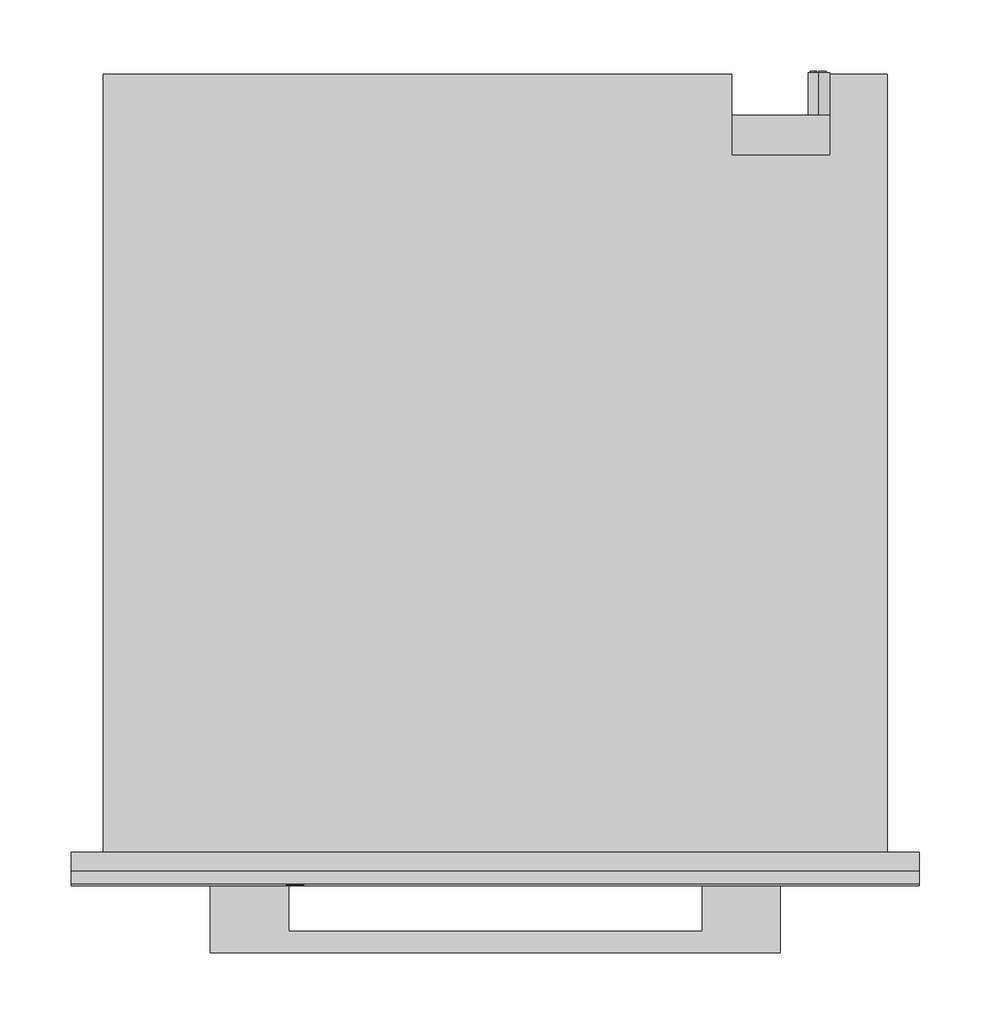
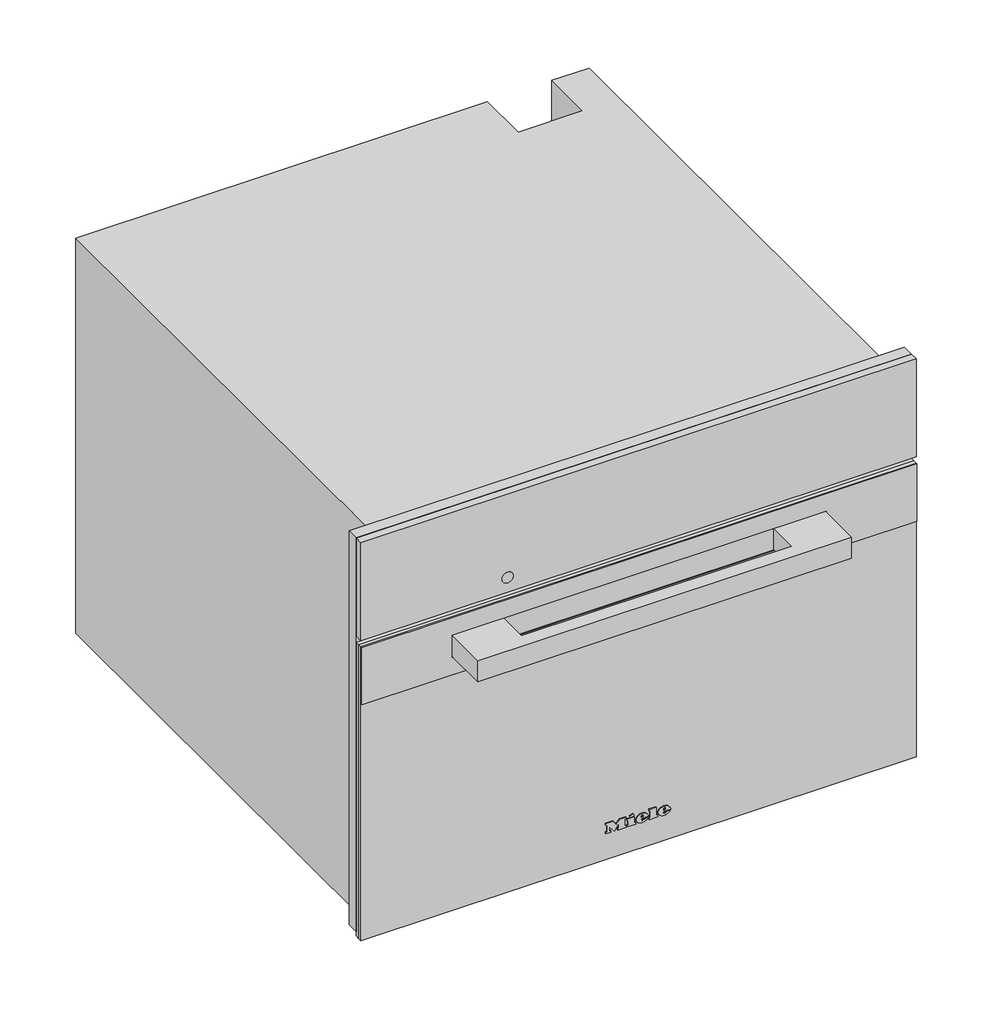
# Not in any storey: 1 proxy.
"""IFC4 building model written with IfcOpenShell, lengths in millimetres."""

import ifcopenshell
import ifcopenshell.guid

model = None  # the IFC model being written
_history = None  # IfcOwnerHistory: only IFC2X3 demands one
_inside = {}  # id of a spatial element -> (the spatial element, [elements in it])
_under = {}  # id of a project, library or spatial element -> (it, [spatial elements below it])
_declared = {}  # id of a project -> (the project, [libraries it declares])
_typed = {}  # id of a type object -> (the type object, [elements of that type])
_made_of = {}  # id of a material, layer set ... -> (it, [elements and type objects made of it])


def new_model(schema):
    """Start an empty IFC model of exactly this schema.

    Asked for "IFC4X3", IfcOpenShell would pick the latest addendum, in which some entities
    have other attributes; the version numbers below select the first issue.
    IFC2X3 requires an IfcOwnerHistory on every rooted entity: one is made here for all.
    """
    global model, _history
    if schema == "IFC4X3":
        model = ifcopenshell.file(schema_version=(4, 3, 0, 0))
    else:
        model = ifcopenshell.file(schema=schema)
    _inside.clear()
    _under.clear()
    _declared.clear()
    _typed.clear()
    _made_of.clear()
    _history = None
    if model.schema == "IFC2X3":
        org = make("IfcOrganization", Name="unknown")
        user = make(
            "IfcPersonAndOrganization",
            ThePerson=make("IfcPerson", FamilyName="unknown"),
            TheOrganization=org,
        )
        app = make(
            "IfcApplication",
            ApplicationDeveloper=org,
            Version="unknown",
            ApplicationFullName="unknown",
            ApplicationIdentifier="unknown",
        )
        _history = make(
            "IfcOwnerHistory",
            OwningUser=user,
            OwningApplication=app,
            ChangeAction="ADDED",
            CreationDate=0,
        )
    return model


def make(cls, **values):
    """One entity of the class cls with the attributes given. An attribute that is None is left unset."""
    return model.create_entity(
        cls, **{name: value for name, value in values.items() if value is not None}
    )


def rooted(cls, **values):
    """An entity with a GlobalId (a new one), such as an element, a storey or a relation."""
    return make(cls, GlobalId=ifcopenshell.guid.new(), OwnerHistory=_history, **values)


def si_unit(unit_type, name, prefix=None):
    """IfcSIUnit, for example si_unit("LENGTHUNIT", "METRE", prefix="MILLI")."""
    return make("IfcSIUnit", UnitType=unit_type, Prefix=prefix, Name=name)


def assignment(units):
    """IfcUnitAssignment: the units of a project."""
    return None if units is None else make("IfcUnitAssignment", Units=units)


def point(xyz):
    """IfcCartesianPoint."""
    return None if xyz is None else make("IfcCartesianPoint", Coordinates=xyz)


def direction(xyz):
    """IfcDirection."""
    return None if xyz is None else make("IfcDirection", DirectionRatios=xyz)


def frame(location, z_axis=None, x_axis=None):
    """IfcAxis2Placement3D, a coordinate frame: its origin and axes. An axis left out is left unset."""
    return make(
        "IfcAxis2Placement3D",
        Location=point(location),
        Axis=direction(z_axis),
        RefDirection=direction(x_axis),
    )


def frame_2d(location, x_axis=None):
    """IfcAxis2Placement2D, a coordinate frame in the plane: its origin and x axis."""
    return make(
        "IfcAxis2Placement2D", Location=point(location), RefDirection=direction(x_axis)
    )


def origin():
    """The frame at (0, 0, 0) with its axes left unset."""
    return frame((0.0, 0.0, 0.0))


def place(relative_to, where):
    """IfcLocalPlacement: puts the frame where relative to a parent placement (None: the world)."""
    return make(
        "IfcLocalPlacement", PlacementRelTo=relative_to, RelativePlacement=where
    )


def context(
    kind, dimensions, precision=None, world=None, true_north=None, identifier=None
):
    """IfcGeometricRepresentationContext, for example the 3D "Model" context."""
    return make(
        "IfcGeometricRepresentationContext",
        ContextIdentifier=identifier,
        ContextType=kind,
        CoordinateSpaceDimension=dimensions,
        Precision=precision,
        WorldCoordinateSystem=world,
        TrueNorth=true_north,
    )


def project(units=None, contexts=None):
    """IfcProject with its units and contexts."""
    return rooted(
        "IfcProject",
        Name="project",
        RepresentationContexts=contexts,
        UnitsInContext=assignment(units),
    )


def spatial(cls, under=None, at=None, **own):
    """A site, building, storey or space (cls), placed at a placement, below another one or the project."""
    s = rooted(cls, ObjectPlacement=at, **own)
    if under is not None:
        _under.setdefault(under.id(), (under, []))[1].append(s)
    return s


def polyline(points):
    """IfcPolyline through the points."""
    return make("IfcPolyline", Points=[point(p) for p in points])


def circle_curve(where, radius):
    """IfcCircle in the frame where."""
    return make("IfcCircle", Position=where, Radius=radius)


def ellipse_curve(where, semi_axis1, semi_axis2):
    """IfcEllipse in the frame where."""
    return make(
        "IfcEllipse", Position=where, SemiAxis1=semi_axis1, SemiAxis2=semi_axis2
    )


def trimmed(basis, trim1, trim2, sense, master):
    """IfcTrimmedCurve: the piece of a basis curve between two trims."""
    return make(
        "IfcTrimmedCurve",
        BasisCurve=basis,
        Trim1=trim1,
        Trim2=trim2,
        SenseAgreement=sense,
        MasterRepresentation=master,
    )


def segment(curve, same_sense, transition):
    """IfcCompositeCurveSegment."""
    return make(
        "IfcCompositeCurveSegment",
        Transition=transition,
        SameSense=same_sense,
        ParentCurve=curve,
    )


def composite_curve(segments, self_intersect=None):
    """IfcCompositeCurve: segments joined end to end."""
    return make("IfcCompositeCurve", Segments=segments, SelfIntersect=self_intersect)


def outline(outer, holes=None, kind="AREA"):
    """IfcArbitraryClosedProfileDef: a profile drawn as a closed curve; with holes, ...WithVoids."""
    if holes is None:
        return make("IfcArbitraryClosedProfileDef", ProfileType=kind, OuterCurve=outer)
    return make(
        "IfcArbitraryProfileDefWithVoids",
        ProfileType=kind,
        OuterCurve=outer,
        InnerCurves=holes,
    )


def extrude(swept, where, along, depth):
    """IfcExtrudedAreaSolid: the profile swept, set in the frame where, extruded along a direction by depth."""
    return make(
        "IfcExtrudedAreaSolid",
        SweptArea=swept,
        Position=where,
        ExtrudedDirection=direction(along),
        Depth=depth,
    )


def faces_of(points, faces, orient=None, outer=None):
    """IfcFace entities. A face is a list of loops; a loop is a list of indices into points, from 0.

    orient and outer hold one flag for each loop. By default every Orientation is true, the
    first loop of a face is its IfcFaceOuterBound and the others are IfcFaceBound.
    """
    made = []
    for i, loops in enumerate(faces):
        bounds = []
        for j, loop in enumerate(loops):
            is_outer = j == 0 if outer is None else outer[i][j]
            bounds.append(
                make(
                    "IfcFaceOuterBound" if is_outer else "IfcFaceBound",
                    Bound=make("IfcPolyLoop", Polygon=[points[k] for k in loop]),
                    Orientation=True if orient is None else orient[i][j],
                )
            )
        made.append(make("IfcFace", Bounds=bounds))
    return made


def faceted_brep(points, faces, orient=None, outer=None, voids=None):
    """IfcFacetedBrep: a solid bounded by flat faces; with voids (closed shells), ...WithVoids."""
    shared = [point(p) for p in points]
    hull = make("IfcClosedShell", CfsFaces=faces_of(shared, faces, orient, outer))
    if voids is None:
        return make("IfcFacetedBrep", Outer=hull)
    return make(
        "IfcFacetedBrepWithVoids",
        Outer=hull,
        Voids=[
            make(cls, CfsFaces=faces_of(shared, fs, o, b)) for cls, fs, o, b in voids
        ],
    )


def shape(context_of_items, identifier, shape_type, items):
    """IfcShapeRepresentation: the items that make up one representation, for example the "Body"."""
    return make(
        "IfcShapeRepresentation",
        ContextOfItems=context_of_items,
        RepresentationIdentifier=identifier,
        RepresentationType=shape_type,
        Items=items,
    )


def source(mapping_origin, context_of_items, identifier, shape_type, items):
    """IfcRepresentationMap: a shape defined once, which mapped items show again and again."""
    return make(
        "IfcRepresentationMap",
        MappingOrigin=mapping_origin,
        MappedRepresentation=shape(context_of_items, identifier, shape_type, items),
    )


def transform(
    local_origin,
    x_axis=None,
    y_axis=None,
    z_axis=None,
    scale=None,
    scale2=None,
    scale3=None,
    uniform=True,
):
    """IfcCartesianTransformationOperator3D, or its non-uniform kind. x_axis, y_axis, z_axis: its Axis1, 2, 3."""
    if uniform:
        return make(
            "IfcCartesianTransformationOperator3D",
            Axis1=direction(x_axis),
            Axis2=direction(y_axis),
            LocalOrigin=point(local_origin),
            Scale=scale,
            Axis3=direction(z_axis),
        )
    return make(
        "IfcCartesianTransformationOperator3DnonUniform",
        Axis1=direction(x_axis),
        Axis2=direction(y_axis),
        LocalOrigin=point(local_origin),
        Scale=scale,
        Axis3=direction(z_axis),
        Scale2=scale2,
        Scale3=scale3,
    )


def mapped(mapping_source, mapping_target):
    """IfcMappedItem: shows the shape of a source again, moved by a transform."""
    return make(
        "IfcMappedItem", MappingSource=mapping_source, MappingTarget=mapping_target
    )


def made_of(thing, what):
    """Note that an element or type object is made of a material, layer set ...; save() writes the relation."""
    if what is not None:
        _made_of.setdefault(what.id(), (what, []))[1].append(thing)
    return thing


def element(
    cls,
    number,
    at=None,
    inside=None,
    cuts=None,
    type_object=None,
    material=None,
    context=None,
    identifier="Body",
    shape_type=None,
    held_by="IfcProductDefinitionShape",
    body=None,
    shapes=None,
    **own,
):
    """One element of the class cls, such as IfcWall. Its Tag is "e" and its number.

    at: its placement. inside: the storey or other place that contains it. cuts: it is an
    opening in that element (IfcRelVoidsElement). A single representation is given by context,
    identifier, shape_type and body (its items); several are given by shapes. held_by: the class
    of the entity that holds the representations. save() writes the other relations.
    """
    e = rooted(cls, Tag="e%d" % number, ObjectPlacement=at, **own)
    if body is not None:
        shapes = [shape(context, identifier, shape_type, body)]
    if shapes is not None:
        e.Representation = make(held_by, Representations=shapes)
    if inside is not None:
        _inside.setdefault(inside.id(), (inside, []))[1].append(e)
    if cuts is not None:
        rooted(
            "IfcRelVoidsElement", RelatingBuildingElement=cuts, RelatedOpeningElement=e
        )
    if type_object is not None:
        _typed.setdefault(type_object.id(), (type_object, []))[1].append(e)
    return made_of(e, material)


def aggregate(whole, parts):
    """IfcRelAggregates: a whole, such as a stair, and the parts it consists of."""
    return rooted("IfcRelAggregates", RelatingObject=whole, RelatedObjects=parts)


def save(model, path):
    """Write the relations noted so far, then the file.

    IfcRelAggregates (storeys below a building ...), IfcRelContainedInSpatialStructure (elements
    in a storey), IfcRelDefinesByType, IfcRelAssociatesMaterial and IfcRelDeclares: one each for
    every whole, place, type object, material and project.
    """
    for whole, parts in _under.values():
        aggregate(whole, parts)
    for where, things in _inside.values():
        rooted(
            "IfcRelContainedInSpatialStructure",
            RelatedElements=things,
            RelatingStructure=where,
        )
    for kind, things in _typed.values():
        rooted("IfcRelDefinesByType", RelatedObjects=things, RelatingType=kind)
    for what, things in _made_of.values():
        rooted("IfcRelAssociatesMaterial", RelatedObjects=things, RelatingMaterial=what)
    for by, libraries in _declared.values():
        rooted("IfcRelDeclares", RelatingContext=by, RelatedDefinitions=libraries)
    model.write(path)


def plane_surface(at):
    """IfcPlane: the flat surface through the origin of the frame at, square to its z axis."""
    return make("IfcPlane", Position=at)


def cylinder_surface(at, radius):
    """IfcCylindricalSurface: all points at the distance radius from the z axis of the frame at."""
    return make("IfcCylindricalSurface", Position=at, Radius=radius)


def revolved_surface(curve, axis_point, axis_direction):
    """IfcSurfaceOfRevolution: the curve turned about the line through axis_point along axis_direction."""
    return make(
        "IfcSurfaceOfRevolution",
        SweptCurve=make("IfcArbitraryOpenProfileDef", ProfileType="CURVE", Curve=curve),
        AxisPosition=make("IfcAxis1Placement", Location=point(axis_point), Axis=direction(axis_direction)),
    )


def extruded_surface(curve, direction_of_extrusion, depth):
    """IfcSurfaceOfLinearExtrusion: the curve pushed along a direction by depth."""
    return make(
        "IfcSurfaceOfLinearExtrusion",
        SweptCurve=make("IfcArbitraryOpenProfileDef", ProfileType="CURVE", Curve=curve),
        ExtrudedDirection=direction(direction_of_extrusion),
        Depth=depth,
    )


def advanced_brep(points, edges, surfaces, faces):
    """IfcAdvancedBrep: a solid bounded by faces that lie on surfaces and meet in shared edges.

    An edge is (start, end): straight between two places in points (the first is 0);
    or (start, end, curve); or (start, end, curve, False) where it runs against its curve.
    A face is (place in surfaces, loops), or (place, loops, False) where it looks against
    its surface's normal. A loop lists edges by number (the first is 1), with a minus sign
    where the edge is run from its end to its start. The first loop is the outer one.
    """
    corners = [point(p) for p in points]
    vertices = [make("IfcVertexPoint", VertexGeometry=c) for c in corners]
    made = []
    for start, end, *more in edges:
        made.append(
            make(
                "IfcEdgeCurve",
                EdgeStart=vertices[start],
                EdgeEnd=vertices[end],
                EdgeGeometry=more[0] if more else make("IfcPolyline", Points=[corners[start], corners[end]]),
                SameSense=more[1] if len(more) > 1 else True,
            )
        )
    hull = []
    for where, loops, *sense in faces:
        bounds = []
        for j, loop in enumerate(loops):
            ring = [make("IfcOrientedEdge", EdgeElement=made[abs(k) - 1], Orientation=k > 0) for k in loop]
            bounds.append(
                make(
                    "IfcFaceOuterBound" if j == 0 else "IfcFaceBound",
                    Bound=make("IfcEdgeLoop", EdgeList=ring),
                    Orientation=True,
                )
            )
        hull.append(make("IfcAdvancedFace", Bounds=bounds, FaceSurface=surfaces[where], SameSense=sense[0] if sense else True))
    return make("IfcAdvancedBrep", Outer=make("IfcClosedShell", CfsFaces=hull))


def specialty_equipment_a42e8c18(model_context):
    return source(origin(), model_context, "Body", "SolidModel", [
        extrude(outline(polyline([(455.0, 297.5), (455.0, -297.5), (9.0, -297.5), (9.0, 297.5), (455.0, 297.5)]), holes=[polyline([(344.0, -272.5), (344.0, 272.5), (27.0, 272.5), (27.0, -272.5), (344.0, -272.5)])]), frame((0.0, -13.0, 0.0), z_axis=(0.0, 1.0, 0.0), x_axis=(0.0, 0.0, 1.0)), (0.0, 0.0, 1.0), 13.0),
        advanced_brep(
        [(227.0, 547.0, 255.5), (227.0, 547.0, 240.5), (221.4098301, 547.0, 243.0), (225.5, 547.0, 243.0), (225.5, 547.0, 253.0), (224.4955303, 547.0, 253.0), (224.4955303, 547.0, 244.0), (221.0315043, 547.0, 244.0), (221.0315043, 547.0, 243.4582978), (232.0, 547.0, 243.0), (232.0, 547.0, 253.0), (227.0, 547.0, 253.0), (227.0, 547.0, 252.0), (231.0, 547.0, 252.0), (231.0, 547.0, 248.5), (228.0, 547.0, 248.5), (228.0, 547.0, 247.5), (231.0, 547.0, 247.5), (231.0, 547.0, 244.0), (227.0, 547.0, 244.0), (227.0, 547.0, 243.0), (227.0, 517.0, 240.5), (227.0, 517.0, 255.5), (232.0, 548.0, 253.0), (232.0, 548.0, 243.0), (227.0, 548.0, 243.0), (227.0, 548.0, 244.0), (231.0, 548.0, 244.0), (231.0, 548.0, 247.5), (228.0, 548.0, 247.5), (228.0, 548.0, 248.5), (231.0, 548.0, 248.5), (231.0, 548.0, 252.0), (227.0, 548.0, 252.0), (227.0, 548.0, 253.0), (225.5, 548.0, 243.0), (221.0315043, 548.0, 243.0), (221.0315043, 548.0, 244.0), (224.4955303, 548.0, 244.0), (224.4955303, 548.0, 253.0), (225.5, 548.0, 253.0), (221.0315043, 547.0, 243.0)],
        [
            (0, 1, circle_curve(frame((227.0, 547.0, 248.0), z_axis=(0.0, 1.0, 0.0), x_axis=(0.0, 0.0, 1.0)), 7.5)),
            (1, 2, circle_curve(frame((227.0, 547.0, 248.0), z_axis=(0.0, 1.0, 0.0), x_axis=(0.0, 0.0, 1.0)), 7.5)),
            (2, 3),
            (3, 4),
            (4, 5),
            (5, 6),
            (6, 7),
            (7, 8),
            (8, 0, circle_curve(frame((227.0, 547.0, 248.0), z_axis=(0.0, 1.0, 0.0), x_axis=(0.0, 0.0, 1.0)), 7.5)),
            (9, 10),
            (10, 11),
            (11, 12),
            (12, 13),
            (13, 14),
            (14, 15),
            (15, 16),
            (16, 17),
            (17, 18),
            (18, 19),
            (19, 20),
            (20, 9),
            (21, 22, circle_curve(frame((227.0, 517.0, 248.0), z_axis=(0.0, -1.0, 0.0), x_axis=(0.0, 0.0, 1.0)), 7.5)),
            (22, 21, circle_curve(frame((227.0, 517.0, 248.0), z_axis=(0.0, -1.0, 0.0), x_axis=(0.0, 0.0, 1.0)), 7.5)),
            (0, 22),
            (21, 1),
            (8, 2, circle_curve(frame((227.0, 547.0, 248.0), z_axis=(0.0, -1.0, 0.0), x_axis=(0.0, 0.0, 1.0)), 7.5)),
            (23, 24),
            (24, 25),
            (25, 26),
            (26, 27),
            (27, 28),
            (28, 29),
            (29, 30),
            (30, 31),
            (31, 32),
            (32, 33),
            (33, 34),
            (34, 23),
            (35, 36),
            (36, 37),
            (37, 38),
            (38, 39),
            (39, 40),
            (40, 35),
            (8, 41),
            (41, 2),
            (23, 10),
            (9, 24),
            (20, 25),
            (19, 26),
            (18, 27),
            (17, 28),
            (16, 29),
            (15, 30),
            (14, 31),
            (13, 32),
            (12, 33),
            (11, 34),
            (35, 3),
            (41, 36),
            (7, 37),
            (6, 38),
            (5, 39),
            (4, 40),
        ],
        [
            plane_surface(frame((227.0, 547.0, 255.5), z_axis=(0.0, 1.0, 0.0), x_axis=(1.0, 0.0, 0.0))),
            plane_surface(frame((227.0, 517.0, 255.5), z_axis=(0.0, -1.0, 0.0), x_axis=(-1.0, 0.0, 0.0))),
            cylinder_surface(frame((227.0, 547.0, 248.0), z_axis=(0.0, -1.0, 0.0), x_axis=(0.0, 0.0, 1.0)), 7.5),
            plane_surface(frame((232.0, 548.0, 253.0), z_axis=(0.0, 1.0, 0.0), x_axis=(0.0, 0.0, -1.0))),
            plane_surface(frame((232.0, 547.0, 253.0), z_axis=(0.0, -1.0, 0.0), x_axis=(0.0, 0.0, 1.0))),
            plane_surface(frame((232.0, 548.0, 253.0), z_axis=(1.0, 0.0, 0.0), x_axis=(0.0, -1.0, 0.0))),
            plane_surface(frame((232.0, 548.0, 243.0), z_axis=(0.0, 0.0, -1.0), x_axis=(0.0, -1.0, 0.0))),
            plane_surface(frame((227.0, 548.0, 243.0), z_axis=(-1.0, 0.0, 0.0), x_axis=(0.0, -1.0, 0.0))),
            plane_surface(frame((227.0, 548.0, 244.0), z_axis=(0.0, 0.0, 1.0), x_axis=(0.0, -1.0, 0.0))),
            plane_surface(frame((231.0, 548.0, 244.0), z_axis=(-1.0, 0.0, 0.0), x_axis=(0.0, -1.0, 0.0))),
            plane_surface(frame((231.0, 548.0, 247.5), z_axis=(0.0, 0.0, -1.0), x_axis=(0.0, -1.0, 0.0))),
            plane_surface(frame((228.0, 548.0, 247.5), z_axis=(-1.0, 0.0, 0.0), x_axis=(0.0, -1.0, 0.0))),
            plane_surface(frame((228.0, 548.0, 248.5), z_axis=(0.0, 0.0, 1.0), x_axis=(0.0, -1.0, 0.0))),
            plane_surface(frame((231.0, 548.0, 248.5), z_axis=(-1.0, 0.0, 0.0), x_axis=(0.0, -1.0, 0.0))),
            plane_surface(frame((231.0, 548.0, 252.0), z_axis=(0.0, 0.0, -1.0), x_axis=(0.0, -1.0, 0.0))),
            plane_surface(frame((227.0, 548.0, 252.0), z_axis=(-1.0, 0.0, 0.0), x_axis=(0.0, -1.0, 0.0))),
            plane_surface(frame((227.0, 548.0, 253.0), z_axis=(0.0, 0.0, 1.0), x_axis=(0.0, -1.0, 0.0))),
            plane_surface(frame((225.5, 548.0, 243.0), z_axis=(0.0, 0.0, -1.0), x_axis=(0.0, -1.0, 0.0))),
            plane_surface(frame((221.0315043, 548.0, 243.0), z_axis=(-1.0, 0.0, 0.0), x_axis=(0.0, -1.0, 0.0))),
            plane_surface(frame((221.0315043, 548.0, 244.0), z_axis=(0.0, 0.0, 1.0), x_axis=(0.0, -1.0, 0.0))),
            plane_surface(frame((224.4955303, 548.0, 244.0), z_axis=(-1.0, 0.0, 0.0), x_axis=(0.0, -1.0, 0.0))),
            plane_surface(frame((224.4955303, 548.0, 253.0), z_axis=(0.0, 0.0, 1.0), x_axis=(0.0, -1.0, 0.0))),
            plane_surface(frame((225.5, 548.0, 253.0), z_axis=(1.0, 0.0, 0.0), x_axis=(0.0, -1.0, 0.0))),
        ],
        [
            (0, [[1, 2, 3, 4, 5, 6, 7, 8, 9], [10, 11, 12, 13, 14, 15, 16, 17, 18, 19, 20, 21]]),
            (1, [[22, 23]]),
            (2, [[-1, 24, -22, 25]]),
            (2, [[-23, -24, -9, 26, -2, -25]]),
            (3, [[27, 28, 29, 30, 31, 32, 33, 34, 35, 36, 37, 38]]),
            (3, [[39, 40, 41, 42, 43, 44]]),
            (4, [[45, 46, -26]]),
            (5, [[-27, 47, -10, 48]]),
            (6, [[-28, -48, -21, 49]]),
            (7, [[-29, -49, -20, 50]]),
            (8, [[-30, -50, -19, 51]]),
            (9, [[-31, -51, -18, 52]]),
            (10, [[-32, -52, -17, 53]]),
            (11, [[-33, -53, -16, 54]]),
            (12, [[-34, -54, -15, 55]]),
            (13, [[-35, -55, -14, 56]]),
            (14, [[-36, -56, -13, 57]]),
            (15, [[-37, -57, -12, 58]]),
            (16, [[-38, -58, -11, -47]]),
            (17, [[-39, 59, -3, -46, 60]]),
            (18, [[-40, -60, -45, -8, 61]]),
            (19, [[-41, -61, -7, 62]]),
            (20, [[-42, -62, -6, 63]]),
            (21, [[-43, -63, -5, 64]]),
            (22, [[-44, -64, -4, -59]]),
        ],
    ),
        faceted_brep([(-275.0, 546.0, 0.0), (-275.0, 546.0, 448.0), (166.0, 546.0, 448.0), (166.0, 546.0, 0.0), (235.0, 546.0, 448.0), (275.0, 546.0, 448.0), (275.0, 546.0, 338.0), (235.0, 546.0, 338.0), (275.0, 0.0, 448.0), (-275.0, 0.0, 448.0), (-275.0, 0.0, 0.0), (275.0, 0.0, 0.0), (-272.5, 0.0, 344.0), (272.5, 0.0, 344.0), (272.5, 0.0, 27.0), (-272.5, 0.0, 27.0), (235.0, 489.0, 448.0), (166.0, 489.0, 448.0), (166.0, 517.0, 0.0), (275.0, 517.0, 0.0), (275.0, 517.0, 338.0), (272.5, 17.0, 344.0), (-272.5, 17.0, 344.0), (-272.5, 17.0, 27.0), (272.5, 17.0, 27.0), (231.0, 17.0, 307.0), (231.0, 17.0, 65.0), (-231.0, 17.0, 65.0), (-231.0, 17.0, 307.0), (231.0, 411.0, 307.0), (-231.0, 411.0, 307.0), (-231.0, 411.0, 65.0), (231.0, 411.0, 65.0), (235.0, 489.0, 337.0), (166.0, 489.0, 337.0), (166.0, 517.0, 337.0), (235.0, 517.0, 337.0), (235.0, 517.0, 338.0)], [[[0, 1, 2, 3]], [[4, 5, 6, 7]], [[8, 9, 10, 11], [12, 13, 14, 15]], [[9, 8, 5, 4, 16, 17, 2, 1]], [[1, 0, 10, 9]], [[11, 10, 0, 3, 18, 19]], [[8, 11, 19, 20, 6, 5]], [[21, 22, 23, 24], [25, 26, 27, 28]], [[22, 21, 13, 12]], [[23, 22, 12, 15]], [[24, 23, 15, 14]], [[21, 24, 14, 13]], [[29, 30, 31, 32]], [[29, 32, 26, 25]], [[32, 31, 27, 26]], [[31, 30, 28, 27]], [[30, 29, 25, 28]], [[16, 33, 34, 17]], [[17, 34, 35, 18, 3, 2]], [[34, 33, 36, 35]], [[33, 16, 4, 7, 37, 36]], [[37, 20, 19, 18, 35, 36]], [[20, 37, 7, 6]]]),
        advanced_brep(
        [(26.2998, -23.0, 36.7018), (26.2998, -23.0, 37.8532), (33.9264, -23.0, 37.8532), (20.6568, -23.0, 37.8532), (23.7918, -23.0, 34.0), (33.7326, -23.0, 36.7018), (30.2898, -23.0, 36.7018), (27.5766, -23.0, 35.425), (26.2998, -23.0, 39.3124), (26.2998, -23.0, 40.555), (28.2492, -23.0, 40.555), (28.2492, -23.0, 39.3124), (26.2998, -22.0, 36.7018), (27.5766, -22.0, 35.425), (30.2898, -22.0, 36.7018), (33.7326, -22.0, 36.7018), (23.7918, -22.0, 34.0), (20.6568, -22.0, 37.8532), (33.9264, -22.0, 37.8532), (26.2998, -22.0, 37.8532), (26.2998, -22.0, 39.3124), (28.2492, -22.0, 39.3124), (28.2492, -22.0, 40.555), (26.2998, -22.0, 40.555)],
        [
            (0, 1),
            (1, 2),
            (2, 3, ellipse_curve(frame((27.2916, -23.0, 37.8532), z_axis=(0.0, -1.0, 0.0), x_axis=(-1.0, 0.0, 0.0)), 6.6348, 5.4834)),
            (3, 4, circle_curve(frame((25.0686622, -23.0, 38.2408), z_axis=(0.0, -1.0, 0.0), x_axis=(0.0, 0.0, -1.0)), 4.4288556)),
            (4, 5, circle_curve(frame((27.1587808, -23.0, 41.2504), z_axis=(0.0, -1.0, 0.0), x_axis=(0.0, 0.0, -1.0)), 7.9940516)),
            (5, 6),
            (6, 7, circle_curve(frame((28.1338588, -23.0, 37.762), z_axis=(0.0, 1.0, 0.0), x_axis=(0.0, 0.0, -1.0)), 2.4025208)),
            (7, 0, circle_curve(frame((27.5766, -23.0, 36.7018), z_axis=(0.0, 1.0, 0.0), x_axis=(0.0, 0.0, -1.0)), 1.2768)),
            (8, 9),
            (9, 10, circle_curve(frame((27.2745, -23.0, 40.555), z_axis=(0.0, 1.0, 0.0), x_axis=(0.0, 0.0, -1.0)), 0.9747)),
            (10, 11),
            (11, 8),
            (12, 13, circle_curve(frame((27.5766, -22.0, 36.7018), z_axis=(0.0, -1.0, 0.0), x_axis=(0.0, 0.0, -1.0)), 1.2768)),
            (13, 14, circle_curve(frame((28.1338588, -22.0, 37.762), z_axis=(0.0, -1.0, 0.0), x_axis=(0.0, 0.0, -1.0)), 2.4025208)),
            (14, 15),
            (15, 16, circle_curve(frame((27.1587808, -22.0, 41.2504), z_axis=(0.0, 1.0, 0.0), x_axis=(0.0, 0.0, -1.0)), 7.9940516)),
            (16, 17, circle_curve(frame((25.0686622, -22.0, 38.2408), z_axis=(0.0, 1.0, 0.0), x_axis=(0.0, 0.0, -1.0)), 4.4288556)),
            (17, 18, ellipse_curve(frame((27.2916, -22.0, 37.8532), z_axis=(0.0, 1.0, 0.0), x_axis=(-1.0, 0.0, 0.0)), 6.6348, 5.4834)),
            (18, 19),
            (19, 12),
            (20, 21),
            (21, 22),
            (22, 23, circle_curve(frame((27.2745, -22.0, 40.555), z_axis=(0.0, -1.0, 0.0), x_axis=(0.0, 0.0, -1.0)), 0.9747)),
            (23, 20),
            (0, 12),
            (19, 1),
            (18, 2),
            (5, 15),
            (14, 6),
            (17, 3),
            (13, 7),
            (16, 4),
            (8, 20),
            (23, 9),
            (22, 10),
            (21, 11),
        ],
        [
            plane_surface(frame((26.2998, -23.0, 37.8532), z_axis=(0.0, -1.0, 0.0), x_axis=(0.0, 0.0, 1.0))),
            plane_surface(frame((26.2998, -22.0, 37.8532), z_axis=(0.0, 1.0, 0.0), x_axis=(0.0, 0.0, -1.0))),
            plane_surface(frame((26.2998, -23.0, 36.7018), z_axis=(1.0, 0.0, 0.0), x_axis=(0.0, 1.0, 0.0))),
            plane_surface(frame((26.2998, -23.0, 37.8532), z_axis=(0.0, 0.0, -1.0), x_axis=(0.0, 1.0, 0.0))),
            plane_surface(frame((33.7326, -23.0, 36.7018), z_axis=(0.0, 0.0, 1.0), x_axis=(0.0, 1.0, 0.0))),
            extruded_surface(trimmed(ellipse_curve(frame((27.2916, -21.0, 37.8532), z_axis=(0.0, -1.0, 0.0), x_axis=(-1.0, 0.0, 0.0)), 6.6348, 5.4834), [point((33.9264, -21.0, 37.8532))], [point((20.6568, -21.0, 37.8532))], True, "CARTESIAN"), (0.0, -1.0, 0.0), 1.0),
            revolved_surface(polyline([(28.1338588, -22.0, 35.3594792), (28.1338588, -23.0, 35.3594792)]), (28.1338588, -22.0, 37.762), (0.0, 1.0, 0.0)),
            revolved_surface(polyline([(27.5766, -22.0, 35.425), (27.5766, -23.0, 35.425)]), (27.5766, -22.0, 36.7018), (0.0, 1.0, 0.0)),
            cylinder_surface(frame((25.0686622, -22.0, 38.2408), z_axis=(0.0, -1.0, 0.0), x_axis=(0.0, 0.0, -1.0)), 4.4288556),
            cylinder_surface(frame((27.1587808, -22.0, 41.2504), z_axis=(0.0, -1.0, 0.0), x_axis=(0.0, 0.0, -1.0)), 7.9940516),
            plane_surface(frame((26.2998, -23.0, 39.3124), z_axis=(1.0, 0.0, 0.0), x_axis=(0.0, 1.0, 0.0))),
            revolved_surface(polyline([(27.2745, -22.0, 39.5803), (27.2745, -23.0, 39.5803)]), (27.2745, -22.0, 40.555), (0.0, 1.0, 0.0)),
            plane_surface(frame((28.2492, -23.0, 40.555), z_axis=(-1.0, 0.0, 0.0), x_axis=(0.0, 1.0, 0.0))),
            plane_surface(frame((28.2492, -23.0, 39.3124), z_axis=(0.0, 0.0, 1.0), x_axis=(0.0, 1.0, 0.0))),
        ],
        [
            (0, [[1, 2, 3, 4, 5, 6, 7, 8], [9, 10, 11, 12]]),
            (1, [[13, 14, 15, 16, 17, 18, 19, 20], [21, 22, 23, 24]]),
            (2, [[-1, 25, -20, 26]]),
            (3, [[-2, -26, -19, 27]]),
            (4, [[-6, 28, -15, 29]]),
            (5, [[-3, -27, -18, 30]]),
            (6, [[-7, -29, -14, 31]]),
            (7, [[-8, -31, -13, -25]]),
            (8, [[-4, -30, -17, 32]]),
            (9, [[-5, -32, -16, -28]]),
            (10, [[-9, 33, -24, 34]]),
            (11, [[-10, -34, -23, 35]]),
            (12, [[-11, -35, -22, 36]]),
            (13, [[-12, -36, -21, -33]]),
        ],
    ),
        advanced_brep(
        [(2.508, -23.0, 36.7018), (2.508, -23.0, 37.8532), (10.1346, -23.0, 37.8532), (-3.135, -23.0, 37.8532), (0.0, -23.0, 34.0), (9.9408, -23.0, 36.7018), (6.498, -23.0, 36.7018), (3.7848, -23.0, 35.425), (2.508, -23.0, 39.3124), (2.508, -23.0, 40.555), (4.4574, -23.0, 40.555), (4.4574, -23.0, 39.3124), (2.508, -22.0, 36.7018), (3.7848, -22.0, 35.425), (6.498, -22.0, 36.7018), (9.9408, -22.0, 36.7018), (0.0, -22.0, 34.0), (-3.135, -22.0, 37.8532), (10.1346, -22.0, 37.8532), (2.508, -22.0, 37.8532), (2.508, -22.0, 39.3124), (4.4574, -22.0, 39.3124), (4.4574, -22.0, 40.555), (2.508, -22.0, 40.555)],
        [
            (0, 1),
            (1, 2),
            (2, 3, ellipse_curve(frame((3.4998, -23.0, 37.8532), z_axis=(0.0, -1.0, 0.0), x_axis=(-1.0, 0.0, 0.0)), 6.6348, 5.4834)),
            (3, 4, circle_curve(frame((1.2768622, -23.0, 38.2408), z_axis=(0.0, -1.0, 0.0), x_axis=(0.0, 0.0, -1.0)), 4.4288556)),
            (4, 5, circle_curve(frame((3.3669808, -23.0, 41.2504), z_axis=(0.0, -1.0, 0.0), x_axis=(0.0, 0.0, -1.0)), 7.9940516)),
            (5, 6),
            (6, 7, circle_curve(frame((4.3420588, -23.0, 37.762), z_axis=(0.0, 1.0, 0.0), x_axis=(0.0, 0.0, -1.0)), 2.4025208)),
            (7, 0, circle_curve(frame((3.7848, -23.0, 36.7018), z_axis=(0.0, 1.0, 0.0), x_axis=(0.0, 0.0, -1.0)), 1.2768)),
            (8, 9),
            (9, 10, circle_curve(frame((3.4827, -23.0, 40.555), z_axis=(0.0, 1.0, 0.0), x_axis=(0.0, 0.0, -1.0)), 0.9747)),
            (10, 11),
            (11, 8),
            (12, 13, circle_curve(frame((3.7848, -22.0, 36.7018), z_axis=(0.0, -1.0, 0.0), x_axis=(0.0, 0.0, -1.0)), 1.2768)),
            (13, 14, circle_curve(frame((4.3420588, -22.0, 37.762), z_axis=(0.0, -1.0, 0.0), x_axis=(0.0, 0.0, -1.0)), 2.4025208)),
            (14, 15),
            (15, 16, circle_curve(frame((3.3669808, -22.0, 41.2504), z_axis=(0.0, 1.0, 0.0), x_axis=(0.0, 0.0, -1.0)), 7.9940516)),
            (16, 17, circle_curve(frame((1.2768622, -22.0, 38.2408), z_axis=(0.0, 1.0, 0.0), x_axis=(0.0, 0.0, -1.0)), 4.4288556)),
            (17, 18, ellipse_curve(frame((3.4998, -22.0, 37.8532), z_axis=(0.0, 1.0, 0.0), x_axis=(-1.0, 0.0, 0.0)), 6.6348, 5.4834)),
            (18, 19),
            (19, 12),
            (20, 21),
            (21, 22),
            (22, 23, circle_curve(frame((3.4827, -22.0, 40.555), z_axis=(0.0, -1.0, 0.0), x_axis=(0.0, 0.0, -1.0)), 0.9747)),
            (23, 20),
            (0, 12),
            (19, 1),
            (18, 2),
            (5, 15),
            (14, 6),
            (17, 3),
            (13, 7),
            (16, 4),
            (8, 20),
            (23, 9),
            (22, 10),
            (21, 11),
        ],
        [
            plane_surface(frame((2.508, -23.0, 37.8532), z_axis=(0.0, -1.0, 0.0), x_axis=(0.0, 0.0, 1.0))),
            plane_surface(frame((2.508, -22.0, 37.8532), z_axis=(0.0, 1.0, 0.0), x_axis=(0.0, 0.0, -1.0))),
            plane_surface(frame((2.508, -23.0, 36.7018), z_axis=(1.0, 0.0, 0.0), x_axis=(0.0, 1.0, 0.0))),
            plane_surface(frame((2.508, -23.0, 37.8532), z_axis=(0.0, 0.0, -1.0), x_axis=(0.0, 1.0, 0.0))),
            plane_surface(frame((9.9408, -23.0, 36.7018), z_axis=(0.0, 0.0, 1.0), x_axis=(0.0, 1.0, 0.0))),
            extruded_surface(trimmed(ellipse_curve(frame((3.4998, -21.0, 37.8532), z_axis=(0.0, -1.0, 0.0), x_axis=(-1.0, 0.0, 0.0)), 6.6348, 5.4834), [point((10.1346, -21.0, 37.8532))], [point((-3.135, -21.0, 37.8532))], True, "CARTESIAN"), (0.0, -1.0, 0.0), 1.0),
            revolved_surface(polyline([(4.3420588, -22.0, 35.3594792), (4.3420588, -23.0, 35.3594792)]), (4.3420588, -22.0, 37.762), (0.0, 1.0, 0.0)),
            revolved_surface(polyline([(3.7848, -22.0, 35.425), (3.7848, -23.0, 35.425)]), (3.7848, -22.0, 36.7018), (0.0, 1.0, 0.0)),
            cylinder_surface(frame((1.2768622, -22.0, 38.2408), z_axis=(0.0, -1.0, 0.0), x_axis=(0.0, 0.0, -1.0)), 4.4288556),
            cylinder_surface(frame((3.3669808, -22.0, 41.2504), z_axis=(0.0, -1.0, 0.0), x_axis=(0.0, 0.0, -1.0)), 7.9940516),
            plane_surface(frame((2.508, -23.0, 39.3124), z_axis=(1.0, 0.0, 0.0), x_axis=(0.0, 1.0, 0.0))),
            revolved_surface(polyline([(3.4827, -22.0, 39.5803), (3.4827, -23.0, 39.5803)]), (3.4827, -22.0, 40.555), (0.0, 1.0, 0.0)),
            plane_surface(frame((4.4574, -23.0, 40.555), z_axis=(-1.0, 0.0, 0.0), x_axis=(0.0, 1.0, 0.0))),
            plane_surface(frame((4.4574, -23.0, 39.3124), z_axis=(0.0, 0.0, 1.0), x_axis=(0.0, 1.0, 0.0))),
        ],
        [
            (0, [[1, 2, 3, 4, 5, 6, 7, 8], [9, 10, 11, 12]]),
            (1, [[13, 14, 15, 16, 17, 18, 19, 20], [21, 22, 23, 24]]),
            (2, [[-1, 25, -20, 26]]),
            (3, [[-2, -26, -19, 27]]),
            (4, [[-6, 28, -15, 29]]),
            (5, [[-3, -27, -18, 30]]),
            (6, [[-7, -29, -14, 31]]),
            (7, [[-8, -31, -13, -25]]),
            (8, [[-4, -30, -17, 32]]),
            (9, [[-5, -32, -16, -28]]),
            (10, [[-9, 33, -24, 34]]),
            (11, [[-10, -34, -23, 35]]),
            (12, [[-11, -35, -22, 36]]),
            (13, [[-12, -36, -21, -33]]),
        ],
    ),
        extrude(outline(polyline([(44.7274, -9.9522), (42.8806, -9.0858), (44.6818, -5.2212), (46.5286, -6.0762), (44.7274, -9.9522)])), frame((0.0, -23.0, 0.0), z_axis=(0.0, 1.0, 0.0), x_axis=(0.0, 0.0, 1.0)), (0.0, 0.0, 1.0), 1.0),
        extrude(outline(polyline([(42.6298, -12.768), (40.5892, -12.768), (40.5892, -11.4114), (35.9152, -11.4114), (35.9152, -12.768), (34.0, -12.768), (34.0, -3.7734), (35.9152, -3.7734), (35.9152, -5.0958), (42.6298, -5.0958), (42.6298, -12.768)])), frame((0.0, -23.0, 0.0), z_axis=(0.0, 1.0, 0.0), x_axis=(0.0, 0.0, 1.0)), (0.0, 0.0, 1.0), 1.0),
        extrude(outline(polyline([(43.5418, 10.773), (43.5418, 12.141), (35.9152, 12.141), (35.9152, 10.773), (34.0, 10.773), (34.0, 20.0184), (35.9152, 20.0184), (35.9152, 18.6162), (45.4, 18.6162), (45.4, 10.773), (43.5418, 10.773)])), frame((0.0, -23.0, 0.0), z_axis=(0.0, 1.0, 0.0), x_axis=(0.0, 0.0, 1.0)), (0.0, 0.0, 1.0), 1.0),
        extrude(outline(polyline([(43.5418, -35.4882), (43.5418, -34.1088), (35.9152, -34.1088), (35.9152, -35.4882), (34.0, -35.4882), (34.0, -30.4722), (35.9152, -30.4722), (35.9152, -31.8402), (40.7429247, -31.8402), (34.0, -26.7444), (40.9402223, -21.6258), (35.9152, -21.6258), (35.9152, -23.028), (34.0, -23.028), (34.0, -13.9308), (35.9152, -13.9308), (35.9152, -15.3786), (43.5418, -15.3786), (43.5418, -13.9308), (45.4, -13.9308), (45.4, -20.8734), (41.125, -24.2022), (45.4, -27.5424), (45.4, -35.4882), (43.5418, -35.4882)])), frame((0.0, -23.0, 0.0), z_axis=(0.0, 1.0, 0.0), x_axis=(0.0, 0.0, 1.0)), (0.0, 0.0, 1.0), 1.0),
        extrude(outline(polyline([(297.5, -22.0), (-297.5, -22.0), (-297.5, -13.0), (297.5, -13.0), (297.5, -22.0)])), frame((0.0, 0.0, 344.0), z_axis=(0.0, 0.0, 1.0), x_axis=(1.0, 0.0, 0.0)), (0.0, 0.0, 1.0), 111.0),
        extrude(outline(composite_curve([segment(trimmed(circle_curve(frame_2d((361.0, -140.5745637)), 6.0), [point((361.0, -146.5745637))], [point((361.0, -134.5745637))], False, "CARTESIAN"), True, "CONTINUOUS"), segment(trimmed(circle_curve(frame_2d((361.0, -140.5745637)), 6.0), [point((361.0, -134.5745637))], [point((361.0, -146.5745637))], False, "CARTESIAN"), True, "CONTINUOUS")], self_intersect=False)), frame((0.0, -22.5, 0.0), z_axis=(0.0, 1.0, 0.0), x_axis=(0.0, 0.0, 1.0)), (0.0, 0.0, 1.0), 1.0),
        extrude(outline(polyline([(337.0, 297.5), (337.0, -297.5), (272.0, -297.5), (272.0, 297.5), (337.0, 297.5)]), holes=[polyline([(317.0, -200.5), (317.0, 200.5), (292.0, 200.5), (292.0, -200.5), (317.0, -200.5)])]), frame((0.0, -23.3, 0.0), z_axis=(0.0, 1.0, 0.0), x_axis=(0.0, 0.0, 1.0)), (0.0, 0.0, 1.0), 1.3),
        extrude(outline(polyline([(-200.0, -70.3), (-200.0, -22.0), (-145.0, -22.0), (-145.0, -55.3), (145.0, -55.3), (145.0, -22.0), (200.0, -22.0), (200.0, -70.3), (-200.0, -70.3)])), frame((0.0, 0.0, 292.5), z_axis=(0.0, 0.0, 1.0), x_axis=(1.0, 0.0, 0.0)), (0.0, 0.0, 1.0), 24.0),
        extrude(outline(polyline([(-297.5, -18.0), (297.5, -18.0), (297.5, -22.0), (-297.5, -22.0), (-297.5, -18.0)])), frame((0.0, 0.0, 4.0), z_axis=(0.0, 0.0, 1.0), x_axis=(1.0, 0.0, 0.0)), (0.0, 0.0, 1.0), 333.0),
        extrude(outline(polyline([(297.5, -18.0), (-297.5, -18.0), (-297.5, -13.0), (297.5, -13.0), (297.5, -18.0)])), frame((0.0, 0.0, 4.0), z_axis=(0.0, 0.0, 1.0), x_axis=(1.0, 0.0, 0.0)), (0.0, 0.0, 1.0), 333.0),
    ])


model = new_model("IFC4")

# Units and contexts
model_context = context("Model", 3, world=origin())
ifc_project = project(units=[si_unit("LENGTHUNIT", "METRE", prefix="MILLI")], contexts=[model_context])

# Site, building
site = spatial("IfcSite", under=ifc_project)
building = spatial("IfcBuilding", under=site)

# Proxy
placement = place(None, origin())
specialty_equipment_shape = specialty_equipment_a42e8c18(model_context)
element("IfcBuildingElementProxy", 1, Name="12118440_SER_DGC7640HCPro_EDST-C : 23764048_SER_12118440_DGC7640HCPro_EDST-C", ObjectType="12118440_SER_DGC7640HCPro_EDST-C : 23764048_SER_12118440_DGC7640HCPro_EDST-C", at=placement, inside=building, context=model_context, shape_type="MappedRepresentation", body=[
    mapped(specialty_equipment_shape, transform((0.0, 0.0, 0.0), x_axis=(1.0, 0.0, 0.0), y_axis=(0.0, 1.0, 0.0), z_axis=(0.0, 0.0, 1.0))),
])

save(model, "model.ifc")
